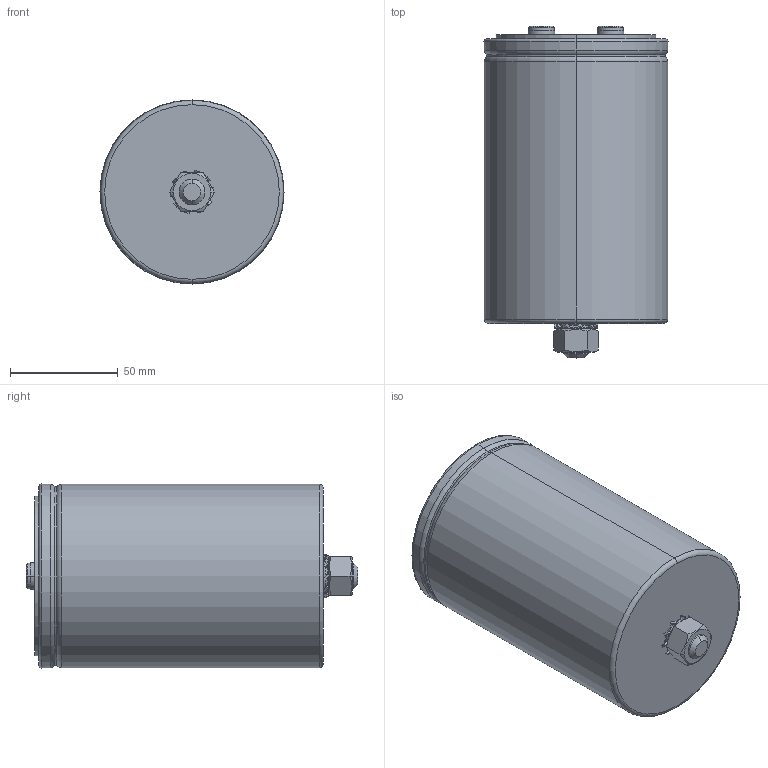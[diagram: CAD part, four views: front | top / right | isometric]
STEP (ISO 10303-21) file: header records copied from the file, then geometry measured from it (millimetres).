
FILE_DESCRIPTION (( 'STEP AP203' ), '1' );
FILE_NAME ('B25620x_85x132_138.STEP', '2021-07-01T02:08:35', ( '' ), ( '' ), 'SwSTEP 2.0', 'SolidWorks 2017', '' );
FILE_SCHEMA (( 'CONFIG_CONTROL_DESIGN' ));
Length unit declared in the file: millimetre
Products named in the file (1): B25620x_85x132_138
Bounding box: 85.4 x 154 x 85.4 mm (x, y, z)
Volume: 63552.1 mm3; surface area: 99443.4 mm2
Topology: 2 solids, 3 shells, 234 faces, 540 edges, 338 vertices
Faces by surface type: cylinder 85, plane 55, bspline 48, cone 30, torus 16
Entity records: 7453 total; most frequent: CARTESIAN_POINT 2221, ORIENTED_EDGE 1072, DIRECTION 1048, EDGE_CURVE 536, AXIS2_PLACEMENT_3D 423, VERTEX_POINT 338, EDGE_LOOP 266, CIRCLE 236
